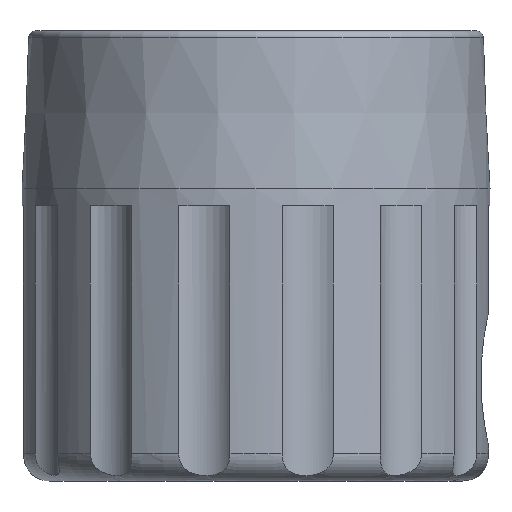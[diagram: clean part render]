
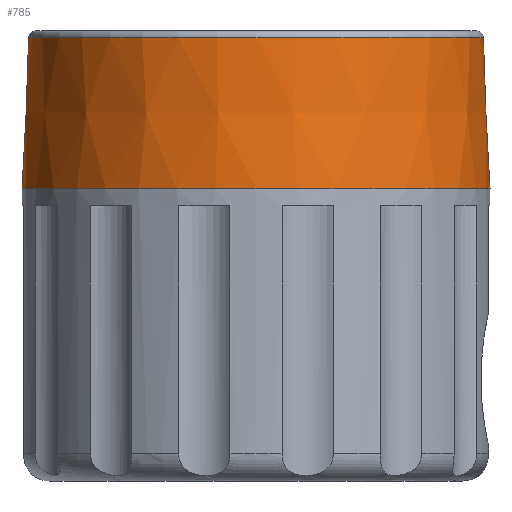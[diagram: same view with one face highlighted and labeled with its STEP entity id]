
A CAD part, front view. The second image highlights one B-rep face of the part: STEP entity #785.
In plain terms, the highlighted conical face has half-angle 2.5 degrees and reference radius 16.75 mm.
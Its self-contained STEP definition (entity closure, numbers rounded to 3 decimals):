
#82=LINE('',#1226,#122);
#122=VECTOR('',#973,16.75);
#162=CONICAL_SURFACE('',#857,16.75,0.044);
#166=FACE_OUTER_BOUND('',#211,.T.);
#211=EDGE_LOOP('',(#535,#536,#537,#538,#539,#540));
#258=CIRCLE('',#853,16.521);
#261=CIRCLE('',#856,16.521);
#262=CIRCLE('',#858,17.);
#263=CIRCLE('',#859,17.);
#320=VERTEX_POINT('',#1217);
#321=VERTEX_POINT('',#1218);
#323=VERTEX_POINT('',#1225);
#324=VERTEX_POINT('',#1227);
#404=EDGE_CURVE('',#320,#321,#258,.T.);
#407=EDGE_CURVE('',#321,#320,#261,.T.);
#408=EDGE_CURVE('',#320,#323,#82,.T.);
#409=EDGE_CURVE('',#323,#324,#262,.T.);
#410=EDGE_CURVE('',#324,#323,#263,.T.);
#535=ORIENTED_EDGE('',*,*,#404,.F.);
#536=ORIENTED_EDGE('',*,*,#408,.T.);
#537=ORIENTED_EDGE('',*,*,#409,.T.);
#538=ORIENTED_EDGE('',*,*,#410,.T.);
#539=ORIENTED_EDGE('',*,*,#408,.F.);
#540=ORIENTED_EDGE('',*,*,#407,.F.);
#785=ADVANCED_FACE('',(#166),#162,.T.);
#853=AXIS2_PLACEMENT_3D('',#1219,#963,#964);
#856=AXIS2_PLACEMENT_3D('',#1223,#969,#970);
#857=AXIS2_PLACEMENT_3D('',#1224,#971,#972);
#858=AXIS2_PLACEMENT_3D('',#1228,#974,#975);
#859=AXIS2_PLACEMENT_3D('',#1229,#976,#977);
#963=DIRECTION('center_axis',(0.,0.,1.));
#964=DIRECTION('ref_axis',(0.,-1.,0.));
#969=DIRECTION('center_axis',(0.,0.,1.));
#970=DIRECTION('ref_axis',(0.,-1.,0.));
#971=DIRECTION('center_axis',(0.,0.,-1.));
#972=DIRECTION('ref_axis',(0.,-1.,0.));
#973=DIRECTION('',(0.,0.044,-0.999));
#974=DIRECTION('center_axis',(0.,0.,1.));
#975=DIRECTION('ref_axis',(0.,-1.,0.));
#976=DIRECTION('center_axis',(0.,0.,1.));
#977=DIRECTION('ref_axis',(0.,-1.,0.));
#1217=CARTESIAN_POINT('',(0.,16.521,-0.478));
#1218=CARTESIAN_POINT('',(16.521,0.,-0.478));
#1219=CARTESIAN_POINT('Origin',(0.,0.,-0.478));
#1223=CARTESIAN_POINT('Origin',(0.,0.,-0.478));
#1224=CARTESIAN_POINT('Origin',(0.,0.,-5.726));
#1225=CARTESIAN_POINT('',(0.,17.,-11.452));
#1226=CARTESIAN_POINT('',(0.,16.75,-5.726));
#1227=CARTESIAN_POINT('',(0.,-17.,-11.452));
#1228=CARTESIAN_POINT('Origin',(0.,0.,-11.452));
#1229=CARTESIAN_POINT('Origin',(0.,0.,-11.452));
